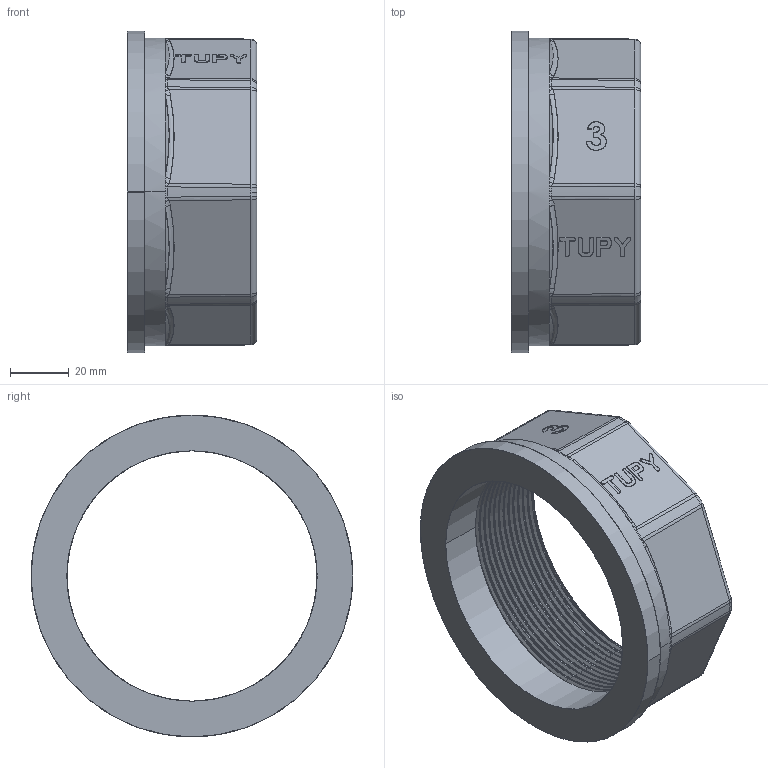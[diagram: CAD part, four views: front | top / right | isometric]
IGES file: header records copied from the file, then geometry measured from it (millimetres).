
Start section: SolidWorks IGES file using analytic representation for surfaces
Global section: file name: C:\Users\Joel Rosa\Desktop\Tubulação\12-83-OK\12-83-012.IGS; native system: SolidWorks 2011; preprocessor: SolidWorks 2011; author: Joel Rosa; date: 131217.002534; units: millimetre
Bounding box: 44 x 109.2 x 109.2 mm (x, y, z)
Surface area: 38070.8 mm2 (no closed solid volume)
Topology: 0 solids, 0 shells, 345 faces, 2840 edges, 2840 vertices
Faces by surface type: bspline 260, revolution 85
